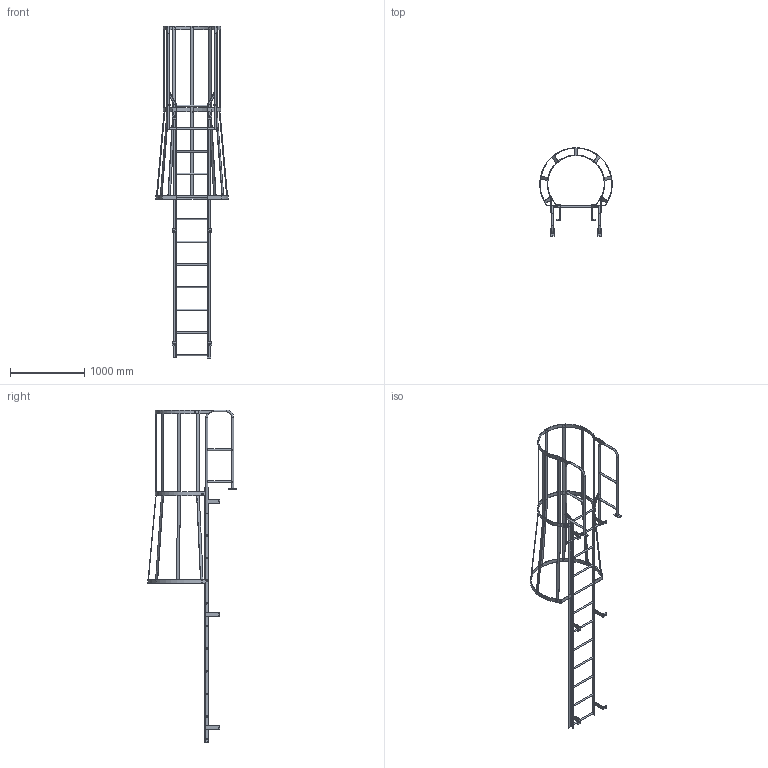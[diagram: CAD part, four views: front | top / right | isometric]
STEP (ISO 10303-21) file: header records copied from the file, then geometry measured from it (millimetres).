
FILE_DESCRIPTION(/* description */ (''),/* implementation_level */ '2;1');
FILE_NAME(/* name */ 'P:\MIKEL & KAREN\3570262 F12WC SIMPLIFIED PART.stp',/* time_stamp */ '2018-07-02T15:56:15-04:00',/* author */ ('stephanie'),/* organization */ (''),/* preprocessor_version */ 'ST-DEVELOPER v16.1',/* originating_system */ 'Autodesk Inventor 2016',/* authorisation */ '');
FILE_SCHEMA (('AUTOMOTIVE_DESIGN { 1 0 10303 214 3 1 1 }'));
Length unit declared in the file: centimetre
Products named in the file (1): 3570262 F12WC SIMPLIFIED PART
Bounding box: 977.88 x 1195.62 x 4467.23 mm (x, y, z)
Volume: 12124522.6 mm3; surface area: 4984465.5 mm2
Topology: 19 solids, 19 shells, 427 faces, 1168 edges, 766 vertices
Faces by surface type: plane 271, cylinder 148, torus 8
Full cylindrical faces by diameter (mm): 10.319 x4, 14.287 x6, 19.05 x12, 22.098 x10, 22.225 x24, 25.4 x10
Entity records: 13891 total; most frequent: CARTESIAN_POINT 2618, DIRECTION 2244, ORIENTED_EDGE 2152, EDGE_CURVE 1058, AXIS2_PLACEMENT_3D 774, VERTEX_POINT 732, LINE 696, VECTOR 696
